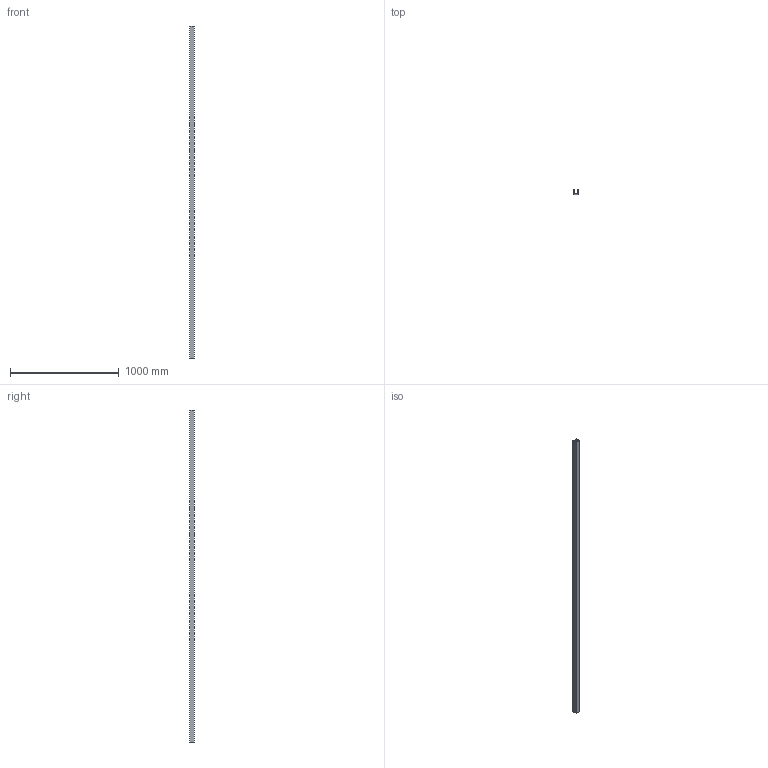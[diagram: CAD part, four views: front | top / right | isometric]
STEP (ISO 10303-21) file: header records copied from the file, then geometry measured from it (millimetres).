
FILE_DESCRIPTION(('Open CASCADE Model'),'2;1');
FILE_NAME('Open CASCADE Shape Model','2026-08-07T04:57:47',('Author'),( 'Open CASCADE'),'Open CASCADE STEP processor 7.9','Open CASCADE 7.9' ,'Unknown');
FILE_SCHEMA(('AUTOMOTIVE_DESIGN { 1 0 10303 214 1 1 1 1 }'));
Length unit declared in the file: millimetre
Products named in the file (1): Open CASCADE STEP translator 7.9 1
Bounding box: 41.28 x 41.28 x 3048 mm (x, y, z)
Volume: 1157452.4 mm3; surface area: 887239.8 mm2
Topology: 1 solids, 1 shells, 18 faces, 48 edges, 32 vertices
Faces by surface type: plane 18
Entity records: 1186 total; most frequent: CARTESIAN_POINT 195, DIRECTION 182, LINE 144, VECTOR 144, ORIENTED_EDGE 96, PCURVE 96, DEFINITIONAL_REPRESENTATION 96, EDGE_CURVE 48
